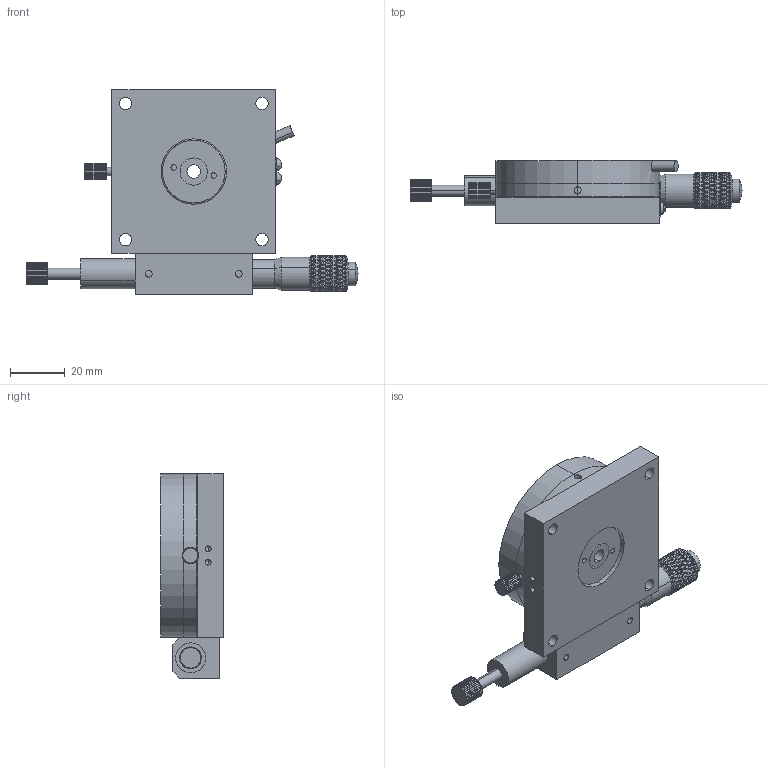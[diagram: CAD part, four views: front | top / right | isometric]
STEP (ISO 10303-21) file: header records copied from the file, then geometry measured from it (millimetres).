
FILE_DESCRIPTION (( 'STEP AP203' ), '1' );
FILE_NAME ('JCR-60L.STEP', '2013-12-24T02:49:59', ( 'MMO' ), ( '' ), 'SwSTEP 2.0', 'SolidWorks 2013', '' );
FILE_SCHEMA (( 'CONFIG_CONTROL_DESIGN' ));
Length unit declared in the file: millimetre
Products named in the file (18): JCR-60-07-01; round cross head screw_ks_KS 1023 RC - M2.5 x 5-N; JCR-60-08-01; JCR-60-01-01; JCR-60L; JCR-40-08-01; 蝶楝蝶お漆橫葭(BA2542); JALB-72-R; JCR-60-03-01; JCR-40-07-01; JCR-60-02-01; socket head cap screw_ks_KS 1003 - M3 x 5 x 5-N; deep groove ball bearing (series 68)_ks_KS B 2023 S68 - 6802-S; JCR-60-09-01; JCR-60-04-01; JCR-60-10-01; JCR-60-05-01; JCR-60-11-01
Assembly tree (19 placements, depth 2):
  JCR-60L
    JCR-60-01-01
    蝶楝蝶お漆橫葭(BA2542)
    JCR-60-03-01
    JCR-60-02-01
    deep groove ball bearing (series 68)_ks_KS B 2023 S68 - 6802-S
    JCR-60-04-01
    JCR-60-05-01
    JCR-60-07-01
    JCR-60-08-01
    JCR-40-08-01
    JALB-72-R
    JCR-40-07-01
    socket head cap screw_ks_KS 1003 - M3 x 5 x 5-N  x2
    JCR-60-09-01
    JCR-60-10-01
    JCR-60-11-01
    round cross head screw_ks_KS 1023 RC - M2.5 x 5-N  x2
Bounding box: 121.7 x 23 x 75 mm (x, y, z)
Volume: 82503.3 mm3; surface area: 40165.5 mm2
Topology: 19 solids, 19 shells, 1646 faces, 3709 edges, 2102 vertices
Faces by surface type: bspline 832, cylinder 554, plane 152, cone 64, torus 34, sphere 10
Entity records: 60839 total; most frequent: CARTESIAN_POINT 32632, ORIENTED_EDGE 7038, DIRECTION 3785, EDGE_CURVE 3519, VERTEX_POINT 2016, EDGE_LOOP 1679, AXIS2_PLACEMENT_3D 1623, FACE_OUTER_BOUND 1583
